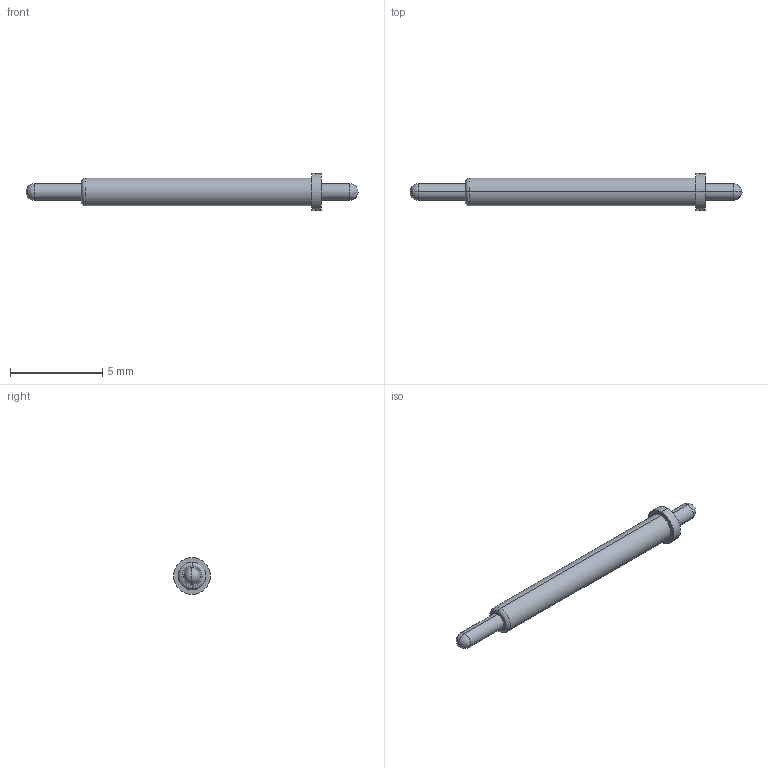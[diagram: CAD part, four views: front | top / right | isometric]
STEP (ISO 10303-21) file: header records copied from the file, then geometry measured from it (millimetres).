
FILE_DESCRIPTION((''),'2;1');
FILE_NAME('PRT0003','2023-03-31T09:27:05',('Administrator'),(''),'CREO PARAMETRIC BY PTC INC, 2018400','CREO PARAMETRIC BY PTC INC, 2018400','');
FILE_SCHEMA(('CONFIG_CONTROL_DESIGN'));
Length unit declared in the file: millimetre
Products named in the file (1): PRT0003
Bounding box: 18 x 2 x 2 mm (x, y, z)
Volume: 26.6 mm3; surface area: 80.8 mm2
Topology: 1 solids, 1 shells, 17 faces, 36 edges, 20 vertices
Faces by surface type: cylinder 8, plane 3, torus 2, sphere 2, bspline 2
Entity records: 522 total; most frequent: CARTESIAN_POINT 123, DIRECTION 86, ORIENTED_EDGE 64, AXIS2_PLACEMENT_3D 39, EDGE_CURVE 32, CIRCLE 24, VERTEX_POINT 20, EDGE_LOOP 20
